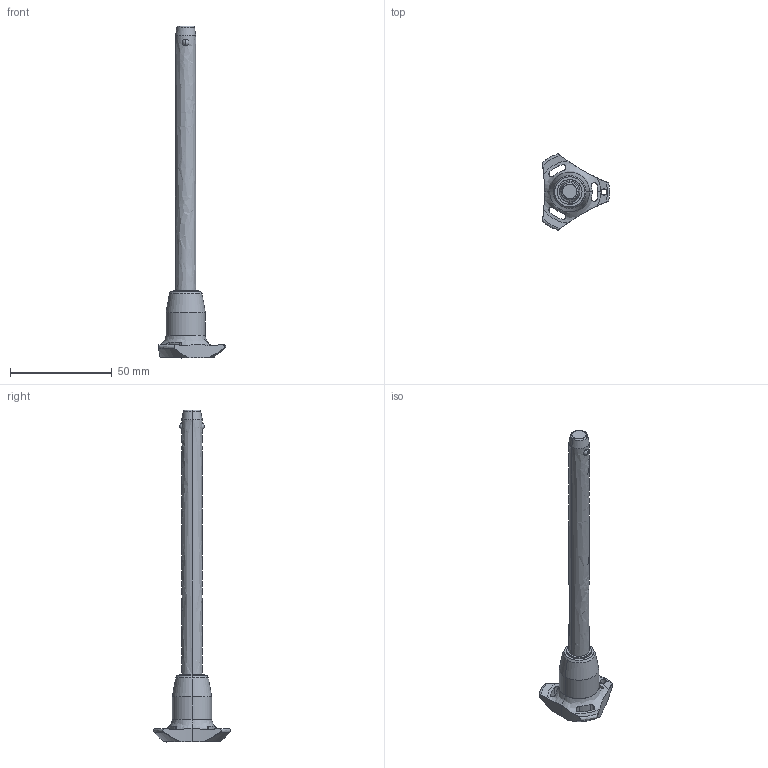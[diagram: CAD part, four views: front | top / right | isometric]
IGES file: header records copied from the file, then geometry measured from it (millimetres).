
Start section: SolidWorks IGES file using analytic representation for surfaces
Global section: file name: C:\Users\ianosborn\Desktop\QR1714_v2\QR1714_v2_20251112_IGES\QR1714.M10-120-S.igs; native system: SolidWorks 2019; preprocessor: SolidWorks 2019; author: IanOsborn; date: 251112.101210; units: millimetre
Bounding box: 33 x 37.51 x 162.9 mm (x, y, z)
Surface area: 7934.3 mm2 (no closed solid volume)
Topology: 0 solids, 0 shells, 65 faces, 1282 edges, 1278 vertices
Faces by surface type: revolution 50, bspline 15
